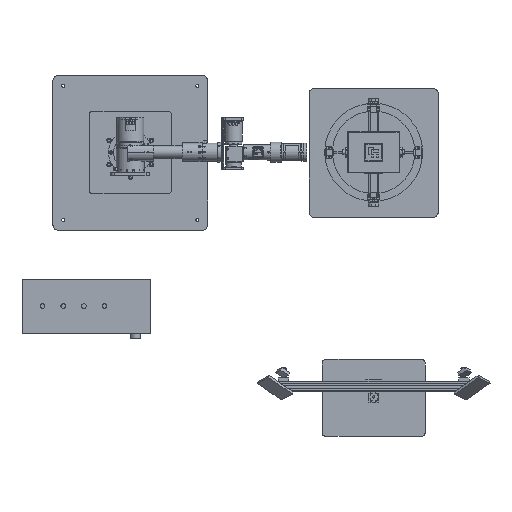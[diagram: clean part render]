
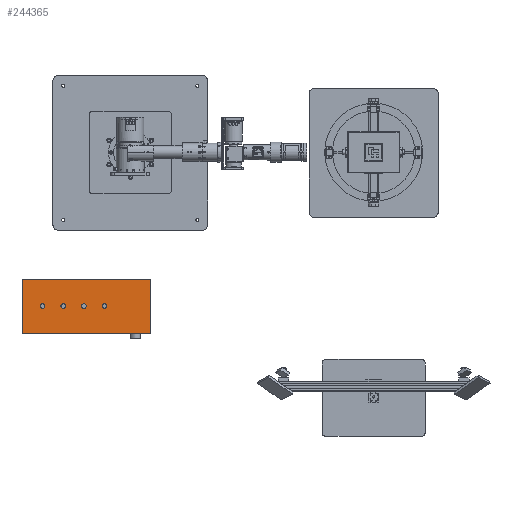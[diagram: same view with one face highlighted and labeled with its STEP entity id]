
A CAD part, top view. The second image highlights one B-rep face of the part: STEP entity #244365.
In plain terms, the highlighted planar face has unit normal (0, 0, 1).
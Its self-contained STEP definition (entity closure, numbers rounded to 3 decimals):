
#244070 = VERTEX_POINT('',#244071);
#244071 = CARTESIAN_POINT('',(-420.,-700.,-320.));
#244078 = PLANE('',#244079);
#244079 = AXIS2_PLACEMENT_3D('',#244080,#244081,#244082);
#244080 = CARTESIAN_POINT('',(-420.,-700.,-720.));
#244081 = DIRECTION('',(1.,0.,-0.));
#244082 = DIRECTION('',(0.,0.,1.));
#244090 = PLANE('',#244091);
#244091 = AXIS2_PLACEMENT_3D('',#244092,#244093,#244094);
#244092 = CARTESIAN_POINT('',(-420.,-700.,-720.));
#244093 = DIRECTION('',(-0.,1.,0.));
#244094 = DIRECTION('',(0.,0.,1.));
#244131 = VERTEX_POINT('',#244132);
#244132 = CARTESIAN_POINT('',(-420.,-490.,-320.));
#244146 = PLANE('',#244147);
#244147 = AXIS2_PLACEMENT_3D('',#244148,#244149,#244150);
#244148 = CARTESIAN_POINT('',(-420.,-490.,-720.));
#244149 = DIRECTION('',(-0.,1.,0.));
#244150 = DIRECTION('',(0.,0.,1.));
#244158 = EDGE_CURVE('',#244070,#244131,#244159,.T.);
#244159 = SURFACE_CURVE('',#244160,(#244164,#244171),.PCURVE_S1.);
#244160 = LINE('',#244161,#244162);
#244161 = CARTESIAN_POINT('',(-420.,-700.,-320.));
#244162 = VECTOR('',#244163,1.);
#244163 = DIRECTION('',(-0.,1.,0.));
#244164 = PCURVE('',#244078,#244165);
#244165 = DEFINITIONAL_REPRESENTATION('',(#244166),#244170);
#244166 = LINE('',#244167,#244168);
#244167 = CARTESIAN_POINT('',(400.,0.));
#244168 = VECTOR('',#244169,1.);
#244169 = DIRECTION('',(0.,-1.));
#244170 = ( GEOMETRIC_REPRESENTATION_CONTEXT(2) 
PARAMETRIC_REPRESENTATION_CONTEXT() REPRESENTATION_CONTEXT('2D SPACE',''
  ) );
#244171 = PCURVE('',#244172,#244177);
#244172 = PLANE('',#244173);
#244173 = AXIS2_PLACEMENT_3D('',#244174,#244175,#244176);
#244174 = CARTESIAN_POINT('',(-420.,-700.,-320.));
#244175 = DIRECTION('',(0.,0.,1.));
#244176 = DIRECTION('',(1.,0.,-0.));
#244177 = DEFINITIONAL_REPRESENTATION('',(#244178),#244182);
#244178 = LINE('',#244179,#244180);
#244179 = CARTESIAN_POINT('',(0.,0.));
#244180 = VECTOR('',#244181,1.);
#244181 = DIRECTION('',(0.,1.));
#244182 = ( GEOMETRIC_REPRESENTATION_CONTEXT(2) 
PARAMETRIC_REPRESENTATION_CONTEXT() REPRESENTATION_CONTEXT('2D SPACE',''
  ) );
#244211 = EDGE_CURVE('',#244070,#244212,#244214,.T.);
#244212 = VERTEX_POINT('',#244213);
#244213 = CARTESIAN_POINT('',(80.,-700.,-320.));
#244214 = SURFACE_CURVE('',#244215,(#244219,#244226),.PCURVE_S1.);
#244215 = LINE('',#244216,#244217);
#244216 = CARTESIAN_POINT('',(-420.,-700.,-320.));
#244217 = VECTOR('',#244218,1.);
#244218 = DIRECTION('',(1.,0.,-0.));
#244219 = PCURVE('',#244090,#244220);
#244220 = DEFINITIONAL_REPRESENTATION('',(#244221),#244225);
#244221 = LINE('',#244222,#244223);
#244222 = CARTESIAN_POINT('',(400.,0.));
#244223 = VECTOR('',#244224,1.);
#244224 = DIRECTION('',(0.,1.));
#244225 = ( GEOMETRIC_REPRESENTATION_CONTEXT(2) 
PARAMETRIC_REPRESENTATION_CONTEXT() REPRESENTATION_CONTEXT('2D SPACE',''
  ) );
#244226 = PCURVE('',#244172,#244227);
#244227 = DEFINITIONAL_REPRESENTATION('',(#244228),#244232);
#244228 = LINE('',#244229,#244230);
#244229 = CARTESIAN_POINT('',(0.,0.));
#244230 = VECTOR('',#244231,1.);
#244231 = DIRECTION('',(1.,0.));
#244232 = ( GEOMETRIC_REPRESENTATION_CONTEXT(2) 
PARAMETRIC_REPRESENTATION_CONTEXT() REPRESENTATION_CONTEXT('2D SPACE',''
  ) );
#244248 = PLANE('',#244249);
#244249 = AXIS2_PLACEMENT_3D('',#244250,#244251,#244252);
#244250 = CARTESIAN_POINT('',(80.,-700.,-720.));
#244251 = DIRECTION('',(1.,0.,-0.));
#244252 = DIRECTION('',(0.,0.,1.));
#244365 = ADVANCED_FACE('',(#244366,#244414,#244445,#244476,#244507),
  #244172,.T.);
#244366 = FACE_BOUND('',#244367,.T.);
#244367 = EDGE_LOOP('',(#244368,#244369,#244370,#244393));
#244368 = ORIENTED_EDGE('',*,*,#244158,.F.);
#244369 = ORIENTED_EDGE('',*,*,#244211,.T.);
#244370 = ORIENTED_EDGE('',*,*,#244371,.T.);
#244371 = EDGE_CURVE('',#244212,#244372,#244374,.T.);
#244372 = VERTEX_POINT('',#244373);
#244373 = CARTESIAN_POINT('',(80.,-490.,-320.));
#244374 = SURFACE_CURVE('',#244375,(#244379,#244386),.PCURVE_S1.);
#244375 = LINE('',#244376,#244377);
#244376 = CARTESIAN_POINT('',(80.,-700.,-320.));
#244377 = VECTOR('',#244378,1.);
#244378 = DIRECTION('',(-0.,1.,0.));
#244379 = PCURVE('',#244172,#244380);
#244380 = DEFINITIONAL_REPRESENTATION('',(#244381),#244385);
#244381 = LINE('',#244382,#244383);
#244382 = CARTESIAN_POINT('',(500.,0.));
#244383 = VECTOR('',#244384,1.);
#244384 = DIRECTION('',(0.,1.));
#244385 = ( GEOMETRIC_REPRESENTATION_CONTEXT(2) 
PARAMETRIC_REPRESENTATION_CONTEXT() REPRESENTATION_CONTEXT('2D SPACE',''
  ) );
#244386 = PCURVE('',#244248,#244387);
#244387 = DEFINITIONAL_REPRESENTATION('',(#244388),#244392);
#244388 = LINE('',#244389,#244390);
#244389 = CARTESIAN_POINT('',(400.,0.));
#244390 = VECTOR('',#244391,1.);
#244391 = DIRECTION('',(0.,-1.));
#244392 = ( GEOMETRIC_REPRESENTATION_CONTEXT(2) 
PARAMETRIC_REPRESENTATION_CONTEXT() REPRESENTATION_CONTEXT('2D SPACE',''
  ) );
#244393 = ORIENTED_EDGE('',*,*,#244394,.F.);
#244394 = EDGE_CURVE('',#244131,#244372,#244395,.T.);
#244395 = SURFACE_CURVE('',#244396,(#244400,#244407),.PCURVE_S1.);
#244396 = LINE('',#244397,#244398);
#244397 = CARTESIAN_POINT('',(-420.,-490.,-320.));
#244398 = VECTOR('',#244399,1.);
#244399 = DIRECTION('',(1.,0.,-0.));
#244400 = PCURVE('',#244172,#244401);
#244401 = DEFINITIONAL_REPRESENTATION('',(#244402),#244406);
#244402 = LINE('',#244403,#244404);
#244403 = CARTESIAN_POINT('',(0.,210.));
#244404 = VECTOR('',#244405,1.);
#244405 = DIRECTION('',(1.,0.));
#244406 = ( GEOMETRIC_REPRESENTATION_CONTEXT(2) 
PARAMETRIC_REPRESENTATION_CONTEXT() REPRESENTATION_CONTEXT('2D SPACE',''
  ) );
#244407 = PCURVE('',#244146,#244408);
#244408 = DEFINITIONAL_REPRESENTATION('',(#244409),#244413);
#244409 = LINE('',#244410,#244411);
#244410 = CARTESIAN_POINT('',(400.,0.));
#244411 = VECTOR('',#244412,1.);
#244412 = DIRECTION('',(0.,1.));
#244413 = ( GEOMETRIC_REPRESENTATION_CONTEXT(2) 
PARAMETRIC_REPRESENTATION_CONTEXT() REPRESENTATION_CONTEXT('2D SPACE',''
  ) );
#244414 = FACE_BOUND('',#244415,.T.);
#244415 = EDGE_LOOP('',(#244416));
#244416 = ORIENTED_EDGE('',*,*,#244417,.F.);
#244417 = EDGE_CURVE('',#244418,#244418,#244420,.T.);
#244418 = VERTEX_POINT('',#244419);
#244419 = CARTESIAN_POINT('',(-330.8,-595.,-320.));
#244420 = SURFACE_CURVE('',#244421,(#244426,#244433),.PCURVE_S1.);
#244421 = CIRCLE('',#244422,9.2);
#244422 = AXIS2_PLACEMENT_3D('',#244423,#244424,#244425);
#244423 = CARTESIAN_POINT('',(-340.,-595.,-320.));
#244424 = DIRECTION('',(0.,0.,1.));
#244425 = DIRECTION('',(1.,0.,-0.));
#244426 = PCURVE('',#244172,#244427);
#244427 = DEFINITIONAL_REPRESENTATION('',(#244428),#244432);
#244428 = CIRCLE('',#244429,9.2);
#244429 = AXIS2_PLACEMENT_2D('',#244430,#244431);
#244430 = CARTESIAN_POINT('',(80.,105.));
#244431 = DIRECTION('',(1.,0.));
#244432 = ( GEOMETRIC_REPRESENTATION_CONTEXT(2) 
PARAMETRIC_REPRESENTATION_CONTEXT() REPRESENTATION_CONTEXT('2D SPACE',''
  ) );
#244433 = PCURVE('',#244434,#244439);
#244434 = CYLINDRICAL_SURFACE('',#244435,9.2);
#244435 = AXIS2_PLACEMENT_3D('',#244436,#244437,#244438);
#244436 = CARTESIAN_POINT('',(-340.,-595.,-323.));
#244437 = DIRECTION('',(0.,0.,1.));
#244438 = DIRECTION('',(1.,0.,-0.));
#244439 = DEFINITIONAL_REPRESENTATION('',(#244440),#244444);
#244440 = LINE('',#244441,#244442);
#244441 = CARTESIAN_POINT('',(0.,3.));
#244442 = VECTOR('',#244443,1.);
#244443 = DIRECTION('',(1.,0.));
#244444 = ( GEOMETRIC_REPRESENTATION_CONTEXT(2) 
PARAMETRIC_REPRESENTATION_CONTEXT() REPRESENTATION_CONTEXT('2D SPACE',''
  ) );
#244445 = FACE_BOUND('',#244446,.T.);
#244446 = EDGE_LOOP('',(#244447));
#244447 = ORIENTED_EDGE('',*,*,#244448,.F.);
#244448 = EDGE_CURVE('',#244449,#244449,#244451,.T.);
#244449 = VERTEX_POINT('',#244450);
#244450 = CARTESIAN_POINT('',(-250.8,-595.,-320.));
#244451 = SURFACE_CURVE('',#244452,(#244457,#244464),.PCURVE_S1.);
#244452 = CIRCLE('',#244453,9.2);
#244453 = AXIS2_PLACEMENT_3D('',#244454,#244455,#244456);
#244454 = CARTESIAN_POINT('',(-260.,-595.,-320.));
#244455 = DIRECTION('',(0.,0.,1.));
#244456 = DIRECTION('',(1.,0.,-0.));
#244457 = PCURVE('',#244172,#244458);
#244458 = DEFINITIONAL_REPRESENTATION('',(#244459),#244463);
#244459 = CIRCLE('',#244460,9.2);
#244460 = AXIS2_PLACEMENT_2D('',#244461,#244462);
#244461 = CARTESIAN_POINT('',(160.,105.));
#244462 = DIRECTION('',(1.,0.));
#244463 = ( GEOMETRIC_REPRESENTATION_CONTEXT(2) 
PARAMETRIC_REPRESENTATION_CONTEXT() REPRESENTATION_CONTEXT('2D SPACE',''
  ) );
#244464 = PCURVE('',#244465,#244470);
#244465 = CYLINDRICAL_SURFACE('',#244466,9.2);
#244466 = AXIS2_PLACEMENT_3D('',#244467,#244468,#244469);
#244467 = CARTESIAN_POINT('',(-260.,-595.,-323.));
#244468 = DIRECTION('',(0.,0.,1.));
#244469 = DIRECTION('',(1.,0.,-0.));
#244470 = DEFINITIONAL_REPRESENTATION('',(#244471),#244475);
#244471 = LINE('',#244472,#244473);
#244472 = CARTESIAN_POINT('',(0.,3.));
#244473 = VECTOR('',#244474,1.);
#244474 = DIRECTION('',(1.,0.));
#244475 = ( GEOMETRIC_REPRESENTATION_CONTEXT(2) 
PARAMETRIC_REPRESENTATION_CONTEXT() REPRESENTATION_CONTEXT('2D SPACE',''
  ) );
#244476 = FACE_BOUND('',#244477,.T.);
#244477 = EDGE_LOOP('',(#244478));
#244478 = ORIENTED_EDGE('',*,*,#244479,.F.);
#244479 = EDGE_CURVE('',#244480,#244480,#244482,.T.);
#244480 = VERTEX_POINT('',#244481);
#244481 = CARTESIAN_POINT('',(-170.8,-595.,-320.));
#244482 = SURFACE_CURVE('',#244483,(#244488,#244495),.PCURVE_S1.);
#244483 = CIRCLE('',#244484,9.2);
#244484 = AXIS2_PLACEMENT_3D('',#244485,#244486,#244487);
#244485 = CARTESIAN_POINT('',(-180.,-595.,-320.));
#244486 = DIRECTION('',(0.,0.,1.));
#244487 = DIRECTION('',(1.,0.,-0.));
#244488 = PCURVE('',#244172,#244489);
#244489 = DEFINITIONAL_REPRESENTATION('',(#244490),#244494);
#244490 = CIRCLE('',#244491,9.2);
#244491 = AXIS2_PLACEMENT_2D('',#244492,#244493);
#244492 = CARTESIAN_POINT('',(240.,105.));
#244493 = DIRECTION('',(1.,0.));
#244494 = ( GEOMETRIC_REPRESENTATION_CONTEXT(2) 
PARAMETRIC_REPRESENTATION_CONTEXT() REPRESENTATION_CONTEXT('2D SPACE',''
  ) );
#244495 = PCURVE('',#244496,#244501);
#244496 = CYLINDRICAL_SURFACE('',#244497,9.2);
#244497 = AXIS2_PLACEMENT_3D('',#244498,#244499,#244500);
#244498 = CARTESIAN_POINT('',(-180.,-595.,-323.));
#244499 = DIRECTION('',(0.,0.,1.));
#244500 = DIRECTION('',(1.,0.,-0.));
#244501 = DEFINITIONAL_REPRESENTATION('',(#244502),#244506);
#244502 = LINE('',#244503,#244504);
#244503 = CARTESIAN_POINT('',(0.,3.));
#244504 = VECTOR('',#244505,1.);
#244505 = DIRECTION('',(1.,0.));
#244506 = ( GEOMETRIC_REPRESENTATION_CONTEXT(2) 
PARAMETRIC_REPRESENTATION_CONTEXT() REPRESENTATION_CONTEXT('2D SPACE',''
  ) );
#244507 = FACE_BOUND('',#244508,.T.);
#244508 = EDGE_LOOP('',(#244509));
#244509 = ORIENTED_EDGE('',*,*,#244510,.F.);
#244510 = EDGE_CURVE('',#244511,#244511,#244513,.T.);
#244511 = VERTEX_POINT('',#244512);
#244512 = CARTESIAN_POINT('',(-90.8,-595.,-320.));
#244513 = SURFACE_CURVE('',#244514,(#244519,#244526),.PCURVE_S1.);
#244514 = CIRCLE('',#244515,9.2);
#244515 = AXIS2_PLACEMENT_3D('',#244516,#244517,#244518);
#244516 = CARTESIAN_POINT('',(-100.,-595.,-320.));
#244517 = DIRECTION('',(0.,0.,1.));
#244518 = DIRECTION('',(1.,0.,-0.));
#244519 = PCURVE('',#244172,#244520);
#244520 = DEFINITIONAL_REPRESENTATION('',(#244521),#244525);
#244521 = CIRCLE('',#244522,9.2);
#244522 = AXIS2_PLACEMENT_2D('',#244523,#244524);
#244523 = CARTESIAN_POINT('',(320.,105.));
#244524 = DIRECTION('',(1.,0.));
#244525 = ( GEOMETRIC_REPRESENTATION_CONTEXT(2) 
PARAMETRIC_REPRESENTATION_CONTEXT() REPRESENTATION_CONTEXT('2D SPACE',''
  ) );
#244526 = PCURVE('',#244527,#244532);
#244527 = CYLINDRICAL_SURFACE('',#244528,9.2);
#244528 = AXIS2_PLACEMENT_3D('',#244529,#244530,#244531);
#244529 = CARTESIAN_POINT('',(-100.,-595.,-323.));
#244530 = DIRECTION('',(0.,0.,1.));
#244531 = DIRECTION('',(1.,0.,-0.));
#244532 = DEFINITIONAL_REPRESENTATION('',(#244533),#244537);
#244533 = LINE('',#244534,#244535);
#244534 = CARTESIAN_POINT('',(0.,3.));
#244535 = VECTOR('',#244536,1.);
#244536 = DIRECTION('',(1.,0.));
#244537 = ( GEOMETRIC_REPRESENTATION_CONTEXT(2) 
PARAMETRIC_REPRESENTATION_CONTEXT() REPRESENTATION_CONTEXT('2D SPACE',''
  ) );
